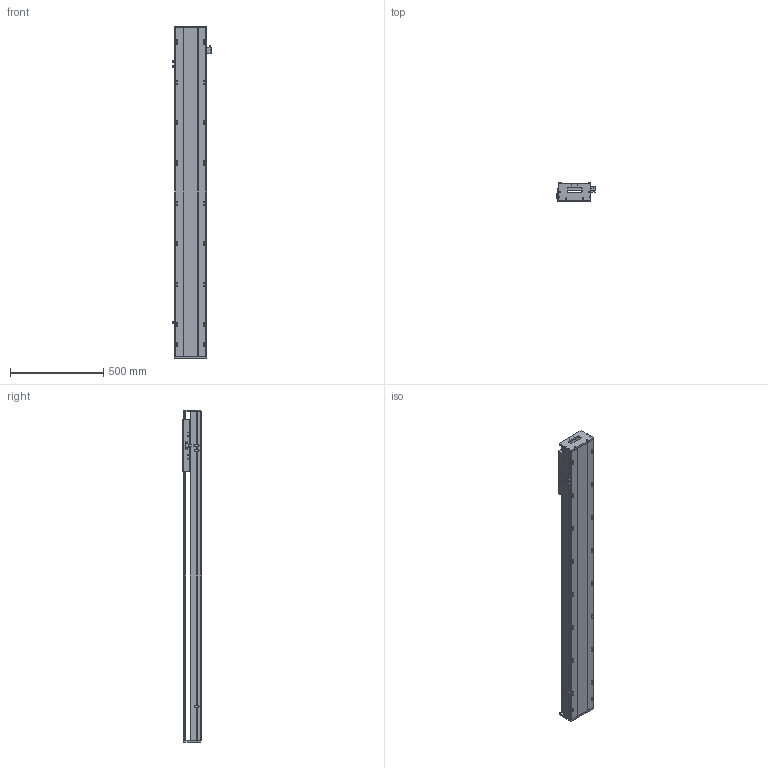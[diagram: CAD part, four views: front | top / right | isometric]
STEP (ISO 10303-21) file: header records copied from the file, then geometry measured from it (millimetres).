
FILE_DESCRIPTION (( 'STEP AP203' ), '1' );
FILE_NAME ('SKR17S-C2-S1396（简）.STEP', '2022-09-29T08:02:06', ( '' ), ( '' ), 'SwSTEP 2.0', 'SolidWorks 2018', '' );
FILE_SCHEMA (( 'CONFIG_CONTROL_DESIGN' ));
Length unit declared in the file: millimetre
Products named in the file (8): SKR17耜啣; EE-SX672; SKR17S-C2-S1396（简）; SIKO棠掑; 棠掑假蚾輸; SKR17底座-C2-S1396（简); SKR17滑台-280L（简）; 感应片（SKR12S-14S-17S）
Assembly tree (10 placements, depth 2):
  SKR17S-C2-S1396（简）
    SKR17底座-C2-S1396（简)
    SIKO棠掑
    EE-SX672  x3
    SKR17耜啣  x2
    棠掑假蚾輸
    SKR17滑台-280L（简）
    感应片（SKR12S-14S-17S）
Bounding box: 212.7 x 97 x 1776 mm (x, y, z)
Volume: 14105800.8 mm3; surface area: 1745684 mm2
Topology: 11 solids, 11 shells, 1240 faces, 3450 edges, 2214 vertices
Faces by surface type: cylinder 601, plane 509, cone 130
Entity records: 37923 total; most frequent: CARTESIAN_POINT 9903, ORIENTED_EDGE 5888, DIRECTION 5437, EDGE_CURVE 2944, AXIS2_PLACEMENT_3D 1932, VERTEX_POINT 1918, LINE 1573, VECTOR 1573
